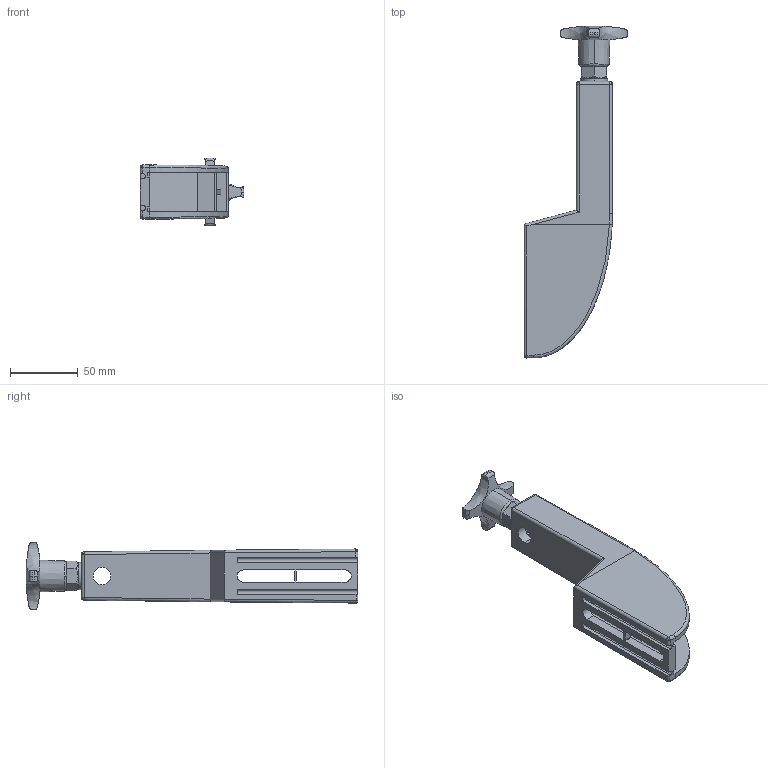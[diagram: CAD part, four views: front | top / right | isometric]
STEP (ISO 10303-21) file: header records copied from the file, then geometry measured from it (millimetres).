
FILE_DESCRIPTION (( 'STEP AP214' ), '1' );
FILE_NAME ('FABER - GH5 2.STEP', '2017-04-06T08:22:19', ( '' ), ( '' ), 'SwSTEP 2.0', 'SolidWorks 2016', '' );
FILE_SCHEMA (( 'AUTOMOTIVE_DESIGN' ));
Length unit declared in the file: millimetre
Products named in the file (1): FABER - GH5 2
Bounding box: 76.5 x 244.34 x 49.96 mm (x, y, z)
Volume: 134280 mm3; surface area: 59875.5 mm2
Topology: 1 solids, 2 shells, 433 faces, 1200 edges, 781 vertices
Faces by surface type: plane 332, cylinder 52, bspline 35, cone 10, torus 4
Entity records: 17011 total; most frequent: CARTESIAN_POINT 6116, ORIENTED_EDGE 2388, DIRECTION 1956, EDGE_CURVE 1194, VECTOR 962, LINE 962, VERTEX_POINT 781, AXIS2_PLACEMENT_3D 497
